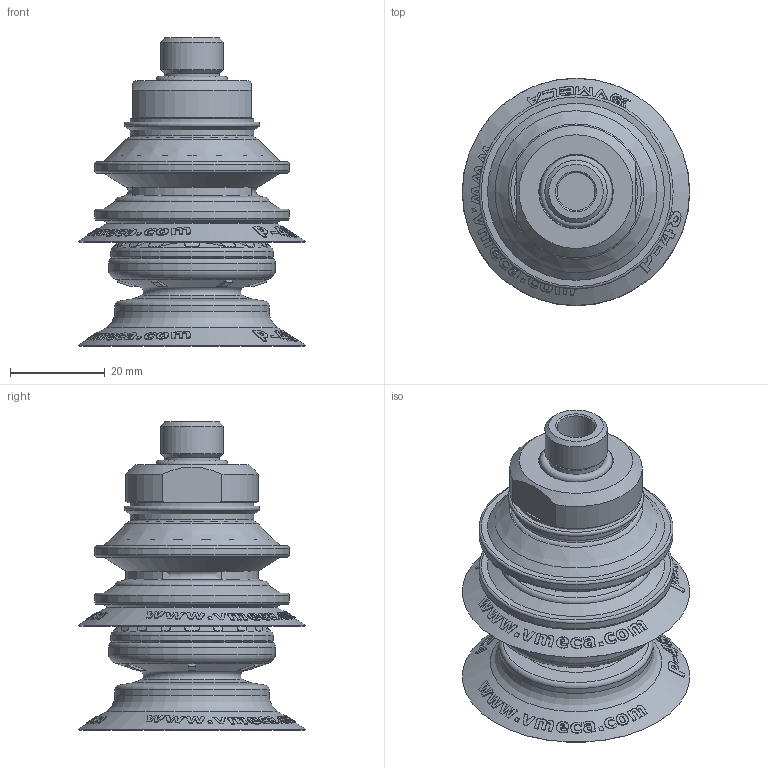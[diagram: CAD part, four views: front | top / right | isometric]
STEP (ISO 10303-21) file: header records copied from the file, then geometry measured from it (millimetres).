
FILE_DESCRIPTION( ( 'Unknown' ), '1' );
FILE_NAME( 'C:/Documents and Settings/Administrator/官帕 拳搁/Magic Cup (Dim)/B2.5/P TYPE/B2.5-40/B2.5-40-P48-N6-D-F2-14M.stp', 'Unknown', ( 'Unknown' ), ( 'Unknown' ), 'XStep 1.0', 'Unknown', ' ' );
FILE_SCHEMA( ( 'automotive_design' ) );
Length unit declared in the file: millimetre
Products named in the file (8): Assem1; Assem2; Assem3; P48; 赤40 STOPPER ; B2.5-40; 40-14M(DIM); 14M-Oring(DIM)
Bounding box: 48 x 48 x 64.99 mm (x, y, z)
Volume: 78345.3 mm3; surface area: 68462.7 mm2
Topology: 15 solids, 15 shells, 2463 faces, 6561 edges, 4269 vertices
Faces by surface type: plane 756, bspline 696, cylinder 420, cone 339, torus 252
Full cylindrical faces by diameter (mm): 8 x3, 11.5 x3, 13.2 x3, 15.3 x3, 16 x3, 21 x6, 21.5 x6, 22 x3, 24 x6, 24.831 x3, 26 x6, 27.8 x3, 27.821 x3, 32.5 x3, 34.2 x3, 35.2 x3, 41 x6
Entity records: 32770 total; most frequent: CARTESIAN_POINT 15076, ORIENTED_EDGE 4172, DIRECTION 2452, EDGE_CURVE 2086, VERTEX_POINT 1413, B_SPLINE_CURVE_WITH_KNOTS 1227, AXIS2_PLACEMENT_3D 996, EDGE_LOOP 971
